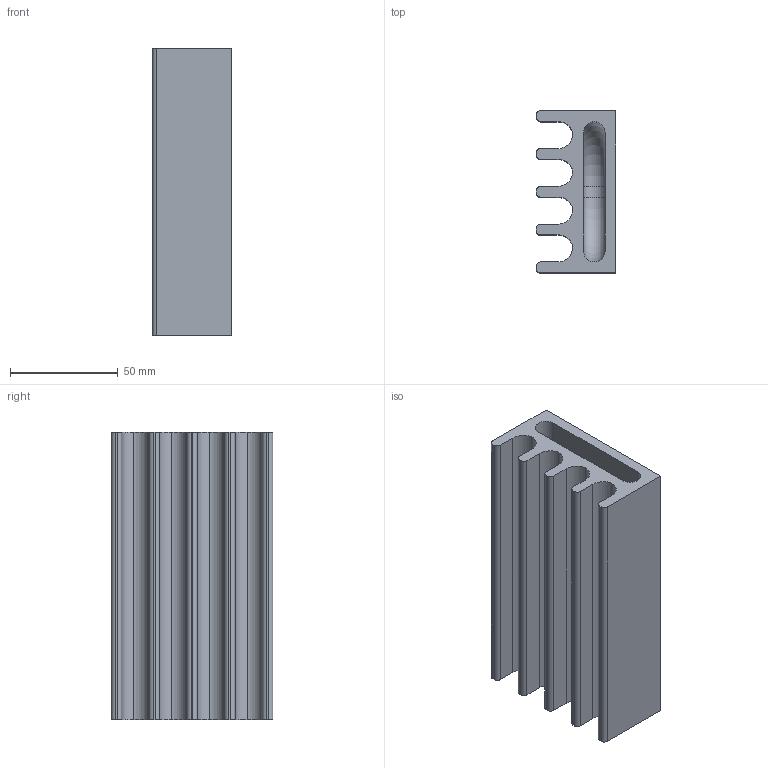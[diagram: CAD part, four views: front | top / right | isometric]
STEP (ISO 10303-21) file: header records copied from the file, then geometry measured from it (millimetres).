
FILE_DESCRIPTION(/* description */ (''),/* implementation_level */ '2;1');
FILE_NAME(/* name */ 'base.step',/* time_stamp */ '2025-09-13T18:02:41+02:00',/* author */ (''),/* organization */ (''),/* preprocessor_version */ 'ST-DEVELOPER v20.1',/* originating_system */ 'Autodesk Translation Framework v14.10.0.0',/* authorisation */ '');
FILE_SCHEMA (('AUTOMOTIVE_DESIGN { 1 0 10303 214 3 1 1 }'));
Length unit declared in the file: millimetre
Products named in the file (1): base
Bounding box: 37 x 75 x 133 mm (x, y, z)
Volume: 188263 mm3; surface area: 64542.3 mm2
Topology: 1 solids, 1 shells, 43 faces, 120 edges, 80 vertices
Faces by surface type: cylinder 21, plane 20, torus 2
Entity records: 1436 total; most frequent: DIRECTION 254, CARTESIAN_POINT 244, ORIENTED_EDGE 240, EDGE_CURVE 120, AXIS2_PLACEMENT_3D 90, VERTEX_POINT 80, LINE 74, VECTOR 74
